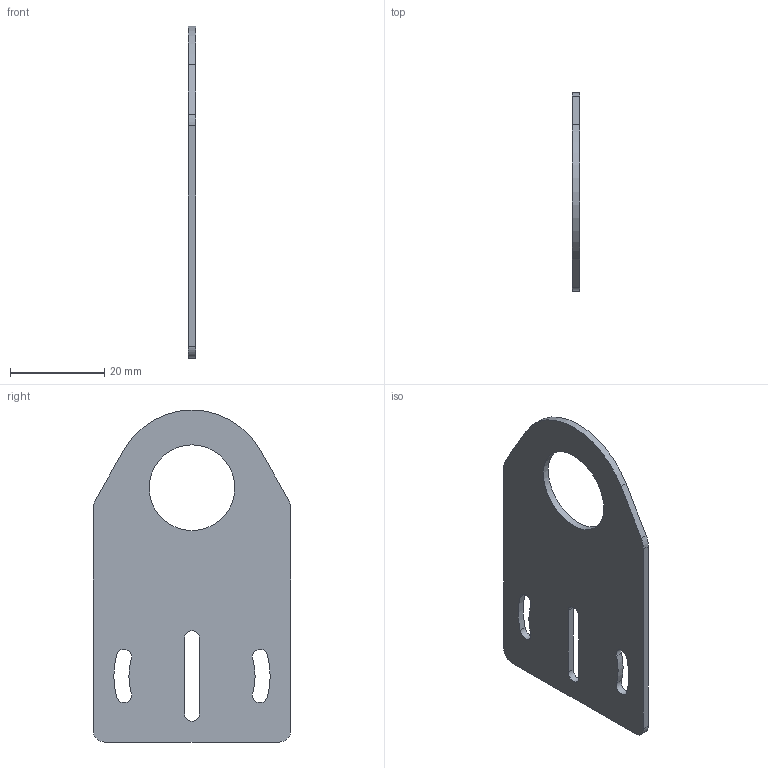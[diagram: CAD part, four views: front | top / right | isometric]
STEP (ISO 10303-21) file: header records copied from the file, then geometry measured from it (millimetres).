
FILE_DESCRIPTION( ( 'Unknown' ), '1' );
FILE_NAME( '//SRVMDFS14/Dati_CAD/Arch_Dis_Prodotti/Definitivi/Conversione_Fig/STP/ST18-A_fig.stp', 'Unknown', ( 'Unknown' ), ( 'Unknown' ), 'PSStep 17.0.49', 'Unknown', ' ' );
FILE_SCHEMA( ( 'AUTOMOTIVE_DESIGN { 1 0 10303 214 1 1 1 1 }' ) );
Length unit declared in the file: millimetre
Products named in the file (1): 1
Bounding box: 1.5 x 42 x 70.5 mm (x, y, z)
Volume: 3468.4 mm3; surface area: 5156.7 mm2
Topology: 1 solids, 1 shells, 25 faces, 69 edges, 46 vertices
Faces by surface type: cylinder 16, plane 9
Full cylindrical faces by diameter (mm): 18.2 x1
Entity records: 1042 total; most frequent: DIRECTION 152, CARTESIAN_POINT 140, ORIENTED_EDGE 136, EDGE_CURVE 68, AXIS2_PLACEMENT_3D 58, VERTEX_POINT 46, LINE 36, VECTOR 36
